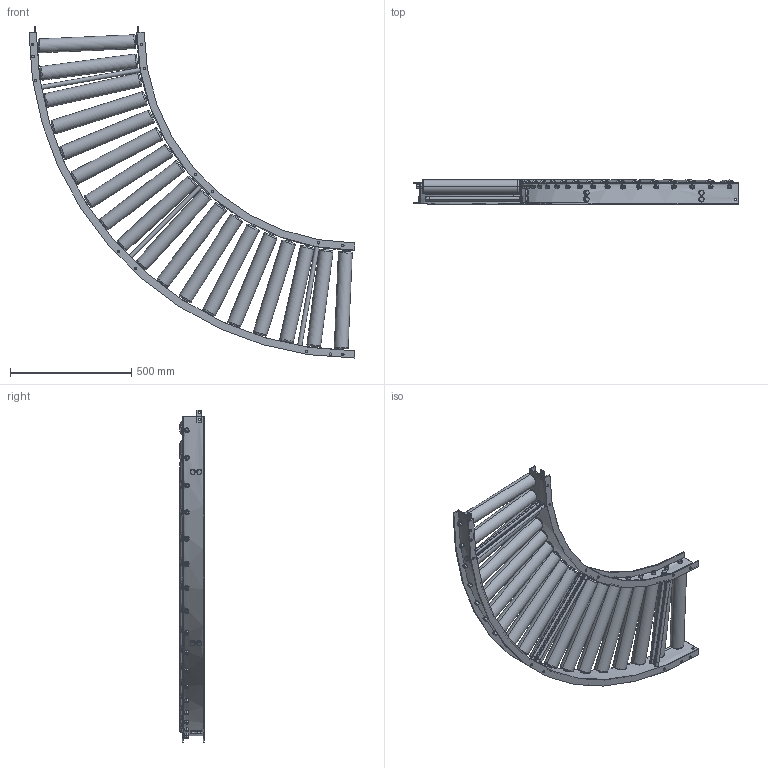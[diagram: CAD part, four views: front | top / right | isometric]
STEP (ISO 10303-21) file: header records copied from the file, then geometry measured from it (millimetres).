
FILE_DESCRIPTION (( 'STEP AP203' ), '1' );
FILE_NAME ('RZ-5723_C.step', '2024-03-15T02:40:15', ( '' ), ( '' ), 'SwSTEP 2.0', 'SolidWorks 2023', '' );
FILE_SCHEMA (( 'CONFIG_CONTROL_DESIGN' ));
Length unit declared in the file: millimetre
Products named in the file (1): RZ-5723_C
Bounding box: 1345 x 100.1 x 1370.12 mm (x, y, z)
Volume: 20207240.9 mm3; surface area: 3803161 mm2
Topology: 70 solids, 70 shells, 988 faces, 2256 edges, 1456 vertices
Faces by surface type: cylinder 454, plane 390, cone 72, torus 72
Entity records: 36599 total; most frequent: CARTESIAN_POINT 13857, DIRECTION 4786, ORIENTED_EDGE 4512, EDGE_CURVE 2256, AXIS2_PLACEMENT_3D 1977, VERTEX_POINT 1456, EDGE_LOOP 1260, FACE_OUTER_BOUND 988
